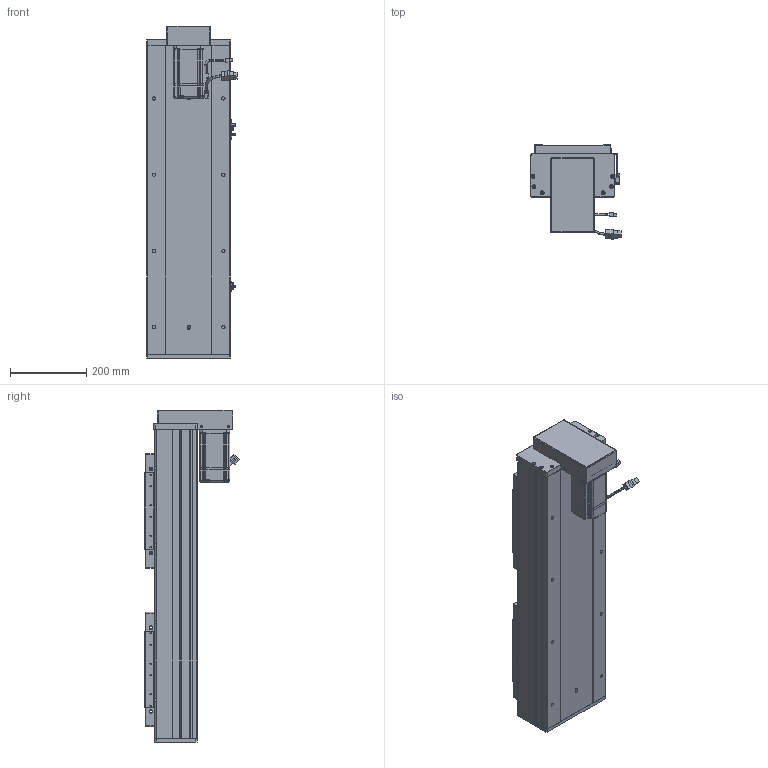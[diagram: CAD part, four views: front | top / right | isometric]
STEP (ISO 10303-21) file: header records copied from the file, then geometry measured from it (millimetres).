
FILE_DESCRIPTION (( 'STEP AP203' ), '1' );
FILE_NAME ('RY220F-L2525-300-BK.SLDASM_400.step', '2022-07-04T01:20:21', ( '' ), ( '' ), 'SwSTEP 2.0', 'SolidWorks 2016', '' );
FILE_SCHEMA (( 'CONFIG_CONTROL_DESIGN' ));
Length unit declared in the file: millimetre
Products named in the file (15): RY220F-詩湍揤踡輸; RY220狟殏萇儂欶; RY220F綴裔啣; RY220F-672覜茼んえ; RY220F-祥凄詩湍-蛌殏-300_400; 滅袉蝶18-24; 侐源滅袉蝶; RY220F-L2525-300-BK.SLDASM_400; 怢湛750W_ECMA-CX0807ES; RY220狟殏萇儂假蚾啣; RY220F臏賑釱25-32佪裝; RY220F-蛌殏奻裔啣-300_400; 覜茼ん672; RY220F-滅鳥奻裔; RY220F蛌殏菁釱-300_400
Assembly tree (24 placements, depth 2):
  RY220F-L2525-300-BK.SLDASM_400
    RY220F蛌殏菁釱-300_400
    RY220F-蛌殏奻裔啣-300_400  x2
    怢湛750W_ECMA-CX0807ES
    RY220F臏賑釱25-32佪裝  x2
    RY220F-滅鳥奻裔  x2
    滅袉蝶18-24  x3
    RY220F綴裔啣
    RY220F-祥凄詩湍-蛌殏-300_400
    RY220F-詩湍揤踡輸  x2
    覜茼ん672  x3
    RY220F-672覜茼んえ  x2
    侐源滅袉蝶  x2
    RY220狟殏萇儂假蚾啣
    RY220狟殏萇儂欶
Bounding box: 237.27 x 247.24 x 871 mm (x, y, z)
Volume: 10460856.8 mm3; surface area: 2606658.4 mm2
Topology: 25 solids, 25 shells, 2655 faces, 7234 edges, 4503 vertices
Faces by surface type: cylinder 1166, plane 1062, cone 356, bspline 45, sphere 16, torus 10
Entity records: 65513 total; most frequent: CARTESIAN_POINT 18145, ORIENTED_EDGE 9626, DIRECTION 9201, EDGE_CURVE 4813, AXIS2_PLACEMENT_3D 3226, VERTEX_POINT 3119, LINE 2749, VECTOR 2749
